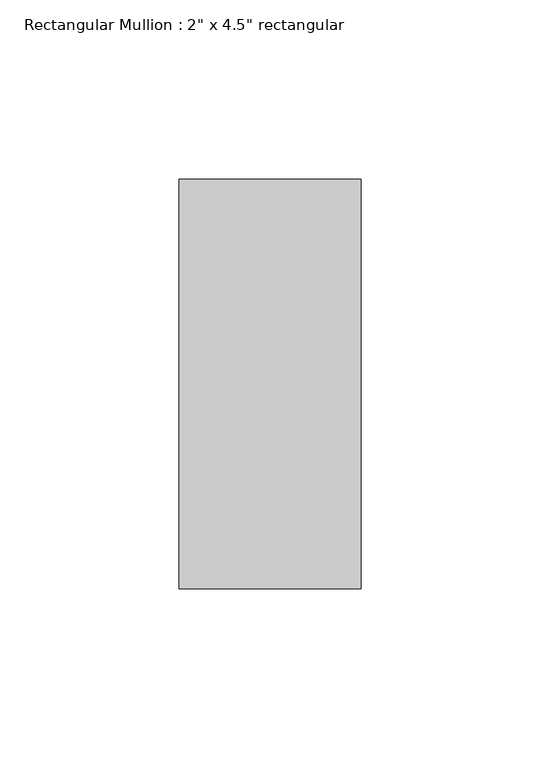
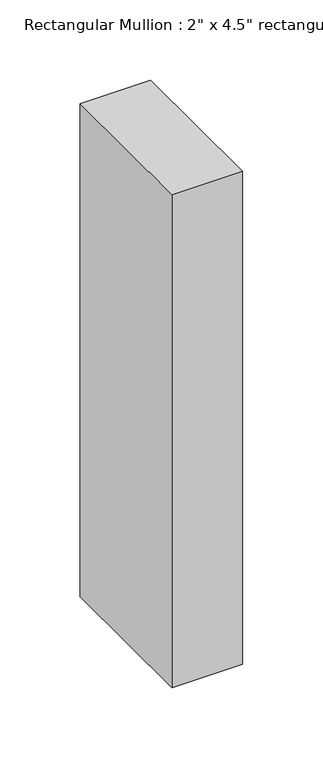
"""IFC4 building model written with IfcOpenShell, lengths in millimetres: member geometry."""

import ifcopenshell
import ifcopenshell.guid

model = None  # the IFC model being written
_history = None  # IfcOwnerHistory: only IFC2X3 demands one
_inside = {}  # id of a spatial element -> (the spatial element, [elements in it])
_under = {}  # id of a project, library or spatial element -> (it, [spatial elements below it])
_declared = {}  # id of a project -> (the project, [libraries it declares])
_typed = {}  # id of a type object -> (the type object, [elements of that type])
_made_of = {}  # id of a material, layer set ... -> (it, [elements and type objects made of it])


def new_model(schema):
    """Start an empty IFC model of exactly this schema.

    Asked for "IFC4X3", IfcOpenShell would pick the latest addendum, in which some entities
    have other attributes; the version numbers below select the first issue.
    IFC2X3 requires an IfcOwnerHistory on every rooted entity: one is made here for all.
    """
    global model, _history
    if schema == "IFC4X3":
        model = ifcopenshell.file(schema_version=(4, 3, 0, 0))
    else:
        model = ifcopenshell.file(schema=schema)
    _inside.clear()
    _under.clear()
    _declared.clear()
    _typed.clear()
    _made_of.clear()
    _history = None
    if model.schema == "IFC2X3":
        org = make("IfcOrganization", Name="unknown")
        user = make(
            "IfcPersonAndOrganization",
            ThePerson=make("IfcPerson", FamilyName="unknown"),
            TheOrganization=org,
        )
        app = make(
            "IfcApplication",
            ApplicationDeveloper=org,
            Version="unknown",
            ApplicationFullName="unknown",
            ApplicationIdentifier="unknown",
        )
        _history = make(
            "IfcOwnerHistory",
            OwningUser=user,
            OwningApplication=app,
            ChangeAction="ADDED",
            CreationDate=0,
        )
    return model


def make(cls, **values):
    """One entity of the class cls with the attributes given. An attribute that is None is left unset."""
    return model.create_entity(
        cls, **{name: value for name, value in values.items() if value is not None}
    )


def rooted(cls, **values):
    """An entity with a GlobalId (a new one), such as an element, a storey or a relation."""
    return make(cls, GlobalId=ifcopenshell.guid.new(), OwnerHistory=_history, **values)


def si_unit(unit_type, name, prefix=None):
    """IfcSIUnit, for example si_unit("LENGTHUNIT", "METRE", prefix="MILLI")."""
    return make("IfcSIUnit", UnitType=unit_type, Prefix=prefix, Name=name)


def assignment(units):
    """IfcUnitAssignment: the units of a project."""
    return None if units is None else make("IfcUnitAssignment", Units=units)


def point(xyz):
    """IfcCartesianPoint."""
    return None if xyz is None else make("IfcCartesianPoint", Coordinates=xyz)


def direction(xyz):
    """IfcDirection."""
    return None if xyz is None else make("IfcDirection", DirectionRatios=xyz)


def frame(location, z_axis=None, x_axis=None):
    """IfcAxis2Placement3D, a coordinate frame: its origin and axes. An axis left out is left unset."""
    return make(
        "IfcAxis2Placement3D",
        Location=point(location),
        Axis=direction(z_axis),
        RefDirection=direction(x_axis),
    )


def origin():
    """The frame at (0, 0, 0) with its axes left unset."""
    return frame((0.0, 0.0, 0.0))


def place(relative_to, where):
    """IfcLocalPlacement: puts the frame where relative to a parent placement (None: the world)."""
    return make(
        "IfcLocalPlacement", PlacementRelTo=relative_to, RelativePlacement=where
    )


def context(
    kind, dimensions, precision=None, world=None, true_north=None, identifier=None
):
    """IfcGeometricRepresentationContext, for example the 3D "Model" context."""
    return make(
        "IfcGeometricRepresentationContext",
        ContextIdentifier=identifier,
        ContextType=kind,
        CoordinateSpaceDimension=dimensions,
        Precision=precision,
        WorldCoordinateSystem=world,
        TrueNorth=true_north,
    )


def project(units=None, contexts=None):
    """IfcProject with its units and contexts."""
    return rooted(
        "IfcProject",
        Name="project",
        RepresentationContexts=contexts,
        UnitsInContext=assignment(units),
    )


def spatial(cls, under=None, at=None, **own):
    """A site, building, storey or space (cls), placed at a placement, below another one or the project."""
    s = rooted(cls, ObjectPlacement=at, **own)
    if under is not None:
        _under.setdefault(under.id(), (under, []))[1].append(s)
    return s


def polyline(points):
    """IfcPolyline through the points."""
    return make("IfcPolyline", Points=[point(p) for p in points])


def outline(outer, holes=None, kind="AREA"):
    """IfcArbitraryClosedProfileDef: a profile drawn as a closed curve; with holes, ...WithVoids."""
    if holes is None:
        return make("IfcArbitraryClosedProfileDef", ProfileType=kind, OuterCurve=outer)
    return make(
        "IfcArbitraryProfileDefWithVoids",
        ProfileType=kind,
        OuterCurve=outer,
        InnerCurves=holes,
    )


def extrude(swept, where, along, depth):
    """IfcExtrudedAreaSolid: the profile swept, set in the frame where, extruded along a direction by depth."""
    return make(
        "IfcExtrudedAreaSolid",
        SweptArea=swept,
        Position=where,
        ExtrudedDirection=direction(along),
        Depth=depth,
    )


def shape(context_of_items, identifier, shape_type, items):
    """IfcShapeRepresentation: the items that make up one representation, for example the "Body"."""
    return make(
        "IfcShapeRepresentation",
        ContextOfItems=context_of_items,
        RepresentationIdentifier=identifier,
        RepresentationType=shape_type,
        Items=items,
    )


def source(mapping_origin, context_of_items, identifier, shape_type, items):
    """IfcRepresentationMap: a shape defined once, which mapped items show again and again."""
    return make(
        "IfcRepresentationMap",
        MappingOrigin=mapping_origin,
        MappedRepresentation=shape(context_of_items, identifier, shape_type, items),
    )


def transform(
    local_origin,
    x_axis=None,
    y_axis=None,
    z_axis=None,
    scale=None,
    scale2=None,
    scale3=None,
    uniform=True,
):
    """IfcCartesianTransformationOperator3D, or its non-uniform kind. x_axis, y_axis, z_axis: its Axis1, 2, 3."""
    if uniform:
        return make(
            "IfcCartesianTransformationOperator3D",
            Axis1=direction(x_axis),
            Axis2=direction(y_axis),
            LocalOrigin=point(local_origin),
            Scale=scale,
            Axis3=direction(z_axis),
        )
    return make(
        "IfcCartesianTransformationOperator3DnonUniform",
        Axis1=direction(x_axis),
        Axis2=direction(y_axis),
        LocalOrigin=point(local_origin),
        Scale=scale,
        Axis3=direction(z_axis),
        Scale2=scale2,
        Scale3=scale3,
    )


def mapped(mapping_source, mapping_target):
    """IfcMappedItem: shows the shape of a source again, moved by a transform."""
    return make(
        "IfcMappedItem", MappingSource=mapping_source, MappingTarget=mapping_target
    )


def made_of(thing, what):
    """Note that an element or type object is made of a material, layer set ...; save() writes the relation."""
    if what is not None:
        _made_of.setdefault(what.id(), (what, []))[1].append(thing)
    return thing


def element(
    cls,
    number,
    at=None,
    inside=None,
    cuts=None,
    type_object=None,
    material=None,
    context=None,
    identifier="Body",
    shape_type=None,
    held_by="IfcProductDefinitionShape",
    body=None,
    shapes=None,
    **own,
):
    """One element of the class cls, such as IfcWall. Its Tag is "e" and its number.

    at: its placement. inside: the storey or other place that contains it. cuts: it is an
    opening in that element (IfcRelVoidsElement). A single representation is given by context,
    identifier, shape_type and body (its items); several are given by shapes. held_by: the class
    of the entity that holds the representations. save() writes the other relations.
    """
    e = rooted(cls, Tag="e%d" % number, ObjectPlacement=at, **own)
    if body is not None:
        shapes = [shape(context, identifier, shape_type, body)]
    if shapes is not None:
        e.Representation = make(held_by, Representations=shapes)
    if inside is not None:
        _inside.setdefault(inside.id(), (inside, []))[1].append(e)
    if cuts is not None:
        rooted(
            "IfcRelVoidsElement", RelatingBuildingElement=cuts, RelatedOpeningElement=e
        )
    if type_object is not None:
        _typed.setdefault(type_object.id(), (type_object, []))[1].append(e)
    return made_of(e, material)


def aggregate(whole, parts):
    """IfcRelAggregates: a whole, such as a stair, and the parts it consists of."""
    return rooted("IfcRelAggregates", RelatingObject=whole, RelatedObjects=parts)


def save(model, path):
    """Write the relations noted so far, then the file.

    IfcRelAggregates (storeys below a building ...), IfcRelContainedInSpatialStructure (elements
    in a storey), IfcRelDefinesByType, IfcRelAssociatesMaterial and IfcRelDeclares: one each for
    every whole, place, type object, material and project.
    """
    for whole, parts in _under.values():
        aggregate(whole, parts)
    for where, things in _inside.values():
        rooted(
            "IfcRelContainedInSpatialStructure",
            RelatedElements=things,
            RelatingStructure=where,
        )
    for kind, things in _typed.values():
        rooted("IfcRelDefinesByType", RelatedObjects=things, RelatingType=kind)
    for what, things in _made_of.values():
        rooted("IfcRelAssociatesMaterial", RelatedObjects=things, RelatingMaterial=what)
    for by, libraries in _declared.values():
        rooted("IfcRelDeclares", RelatingContext=by, RelatedDefinitions=libraries)
    model.write(path)


def member_16770488(model_context):
    return source(origin(), model_context, "Body", "SweptSolid", [
        extrude(outline(polyline([(0.0, 57.15), (0.0, -57.15), (-50.8, -57.15), (-50.8, 57.15), (0.0, 57.15)])), frame((0.0, 0.0, -374.6555026), z_axis=(0.0, 0.0, 1.0), x_axis=(1.0, 0.0, 0.0)), (0.0, 0.0, 1.0), 374.6555026),
    ])


if __name__ == "__main__":
    model = new_model("IFC4")
    model_context = context("Model", 3, world=origin())
    ifc_project = project(units=[si_unit("LENGTHUNIT", "METRE", prefix="MILLI")], contexts=[model_context])
    site = spatial("IfcSite", under=ifc_project)
    building = spatial("IfcBuilding", under=site)
    placement = place(None, origin())
    member_shape = member_16770488(model_context)
    element("IfcMember", 1, ObjectType="Rectangular Mullion : 2\" x 4.5\" rectangular", at=placement, inside=building, context=model_context, shape_type="MappedRepresentation", body=[
        mapped(member_shape, transform((0.0, 0.0, 0.0), x_axis=(1.0, 0.0, 0.0), y_axis=(0.0, 1.0, 0.0), z_axis=(0.0, 0.0, 1.0))),
    ])
    save(model, "model.ifc")
